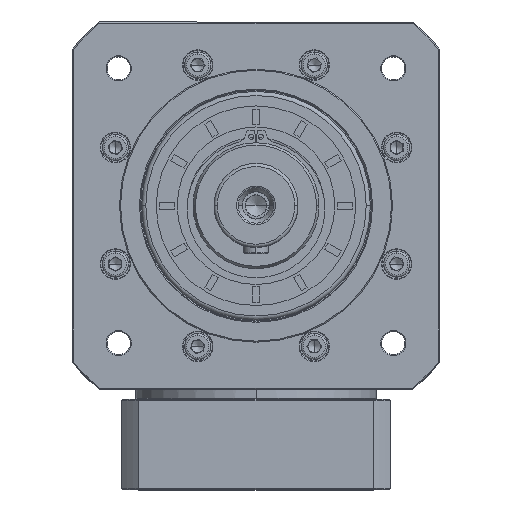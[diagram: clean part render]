
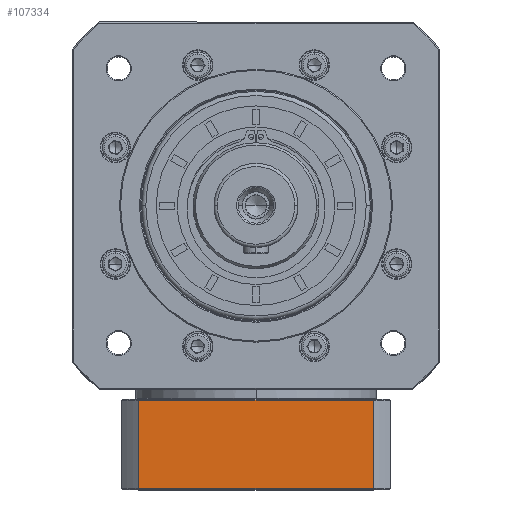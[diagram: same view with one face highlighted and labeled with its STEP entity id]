
A CAD part, top view. The second image highlights one B-rep face of the part: STEP entity #107334.
In plain terms, the highlighted planar face has unit normal (0, 0, 1).
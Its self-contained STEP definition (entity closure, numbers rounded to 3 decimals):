
#1740 = DIRECTION ( 'NONE',  ( 0., -1., 0. ) ) ;
#14526 = DIRECTION ( 'NONE',  ( 1., 0., 0. ) ) ;
#18152 = LINE ( 'NONE', #143099, #49204 ) ;
#18769 = CARTESIAN_POINT ( 'NONE',  ( -139.836, -152.044, 90.941 ) ) ;
#29141 = CARTESIAN_POINT ( 'NONE',  ( -259.774, -110.044, 90.941 ) ) ;
#30162 = DIRECTION ( 'NONE',  ( 0., 1., 0. ) ) ;
#31994 = CARTESIAN_POINT ( 'NONE',  ( -251.711, -110.044, 90.941 ) ) ;
#32168 = CARTESIAN_POINT ( 'NONE',  ( -259.774, -152.544, 90.941 ) ) ;
#33488 = EDGE_CURVE ( 'NONE', #77910, #67862, #34788, .T. ) ;
#34788 = LINE ( 'NONE', #99223, #126439 ) ;
#37140 = DIRECTION ( 'NONE',  ( -1., 0., 0. ) ) ;
#46964 = ORIENTED_EDGE ( 'NONE', *, *, #89300, .F. ) ;
#49204 = VECTOR ( 'NONE', #30162, 1000. ) ;
#57157 = EDGE_CURVE ( 'NONE', #75396, #116273, #156639, .T. ) ;
#67862 = VERTEX_POINT ( 'NONE', #109566 ) ;
#68865 = CARTESIAN_POINT ( 'NONE',  ( -139.836, -110.044, 90.941 ) ) ;
#71988 = EDGE_CURVE ( 'NONE', #67862, #75396, #18152, .T. ) ;
#75396 = VERTEX_POINT ( 'NONE', #31994 ) ;
#77910 = VERTEX_POINT ( 'NONE', #18769 ) ;
#81271 = PLANE ( 'NONE',  #110329 ) ;
#89300 = EDGE_CURVE ( 'NONE', #116273, #77910, #121112, .T. ) ;
#93714 = VECTOR ( 'NONE', #1740, 1000. ) ;
#99223 = CARTESIAN_POINT ( 'NONE',  ( -259.774, -152.044, 90.941 ) ) ;
#103653 = VECTOR ( 'NONE', #14526, 1000. ) ;
#107334 = ADVANCED_FACE ( 'NONE', ( #117252 ), #81271, .F. ) ;
#109566 = CARTESIAN_POINT ( 'NONE',  ( -251.711, -152.044, 90.941 ) ) ;
#110329 = AXIS2_PLACEMENT_3D ( 'NONE', #32168, #119422, #157141 ) ;
#112380 = ORIENTED_EDGE ( 'NONE', *, *, #33488, .F. ) ;
#116273 = VERTEX_POINT ( 'NONE', #68865 ) ;
#117252 = FACE_OUTER_BOUND ( 'NONE', #125625, .T. ) ;
#119422 = DIRECTION ( 'NONE',  ( 0., 0., -1. ) ) ;
#120004 = ORIENTED_EDGE ( 'NONE', *, *, #71988, .F. ) ;
#121112 = LINE ( 'NONE', #151162, #93714 ) ;
#125625 = EDGE_LOOP ( 'NONE', ( #46964, #155759, #120004, #112380 ) ) ;
#126439 = VECTOR ( 'NONE', #37140, 1000. ) ;
#143099 = CARTESIAN_POINT ( 'NONE',  ( -251.711, -152.544, 90.941 ) ) ;
#151162 = CARTESIAN_POINT ( 'NONE',  ( -139.836, 142.871, 90.941 ) ) ;
#155759 = ORIENTED_EDGE ( 'NONE', *, *, #57157, .F. ) ;
#156639 = LINE ( 'NONE', #29141, #103653 ) ;
#157141 = DIRECTION ( 'NONE',  ( -1., 0., 0. ) ) ;
